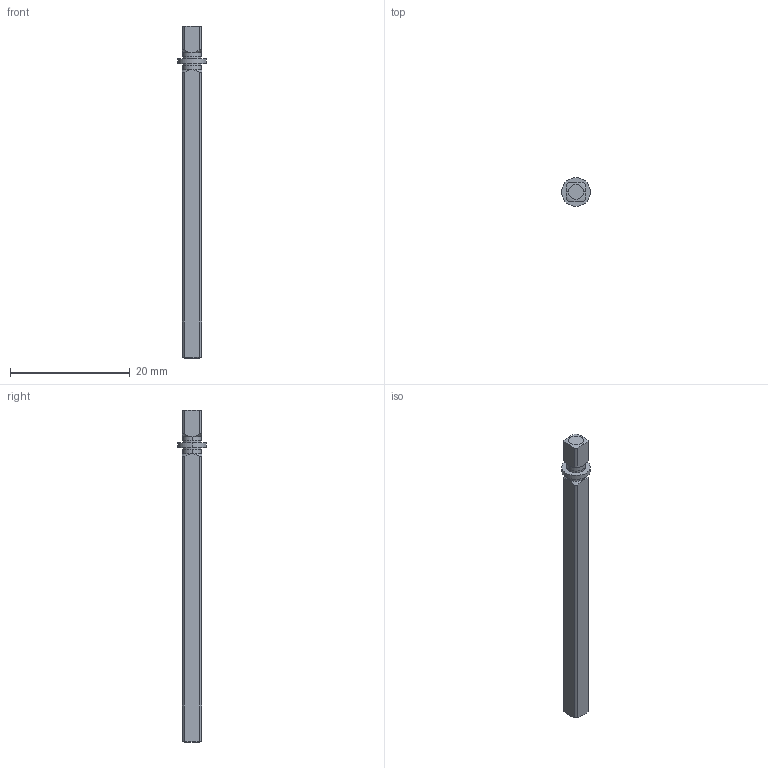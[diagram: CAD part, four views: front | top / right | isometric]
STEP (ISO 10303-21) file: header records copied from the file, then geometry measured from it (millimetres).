
FILE_DESCRIPTION (( 'STEP AP214' ), '1' );
FILE_NAME ('228-2500-2238.STEP', '2021-02-18T20:22:44', ( '' ), ( '' ), 'SwSTEP 2.0', 'SolidWorks 2019', '' );
FILE_SCHEMA (( 'AUTOMOTIVE_DESIGN' ));
Length unit declared in the file: millimetre
Products named in the file (3): 228-2500-2238; 228-2500-2238-01 Rev3_228-2500-2238-01; 228-2500-2233-OVERMOLD Rev3_228-5579-2233-OVERMOLD
Assembly tree (2 placements, depth 2):
  228-2500-2238
    228-2500-2238-01 Rev3_228-2500-2238-01
    228-2500-2233-OVERMOLD Rev3_228-5579-2233-OVERMOLD
Bounding box: 4.8 x 4.8 x 55.37 mm (x, y, z)
Volume: 548.8 mm3; surface area: 735.9 mm2
Topology: 2 solids, 2 shells, 46 faces, 110 edges, 72 vertices
Faces by surface type: cylinder 22, plane 16, torus 4, cone 4
Entity records: 1580 total; most frequent: CARTESIAN_POINT 393, DIRECTION 240, ORIENTED_EDGE 220, EDGE_CURVE 110, AXIS2_PLACEMENT_3D 103, VERTEX_POINT 72, CIRCLE 52, EDGE_LOOP 52
